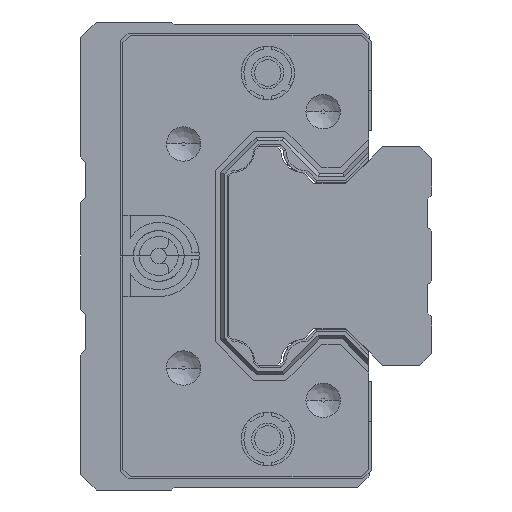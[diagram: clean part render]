
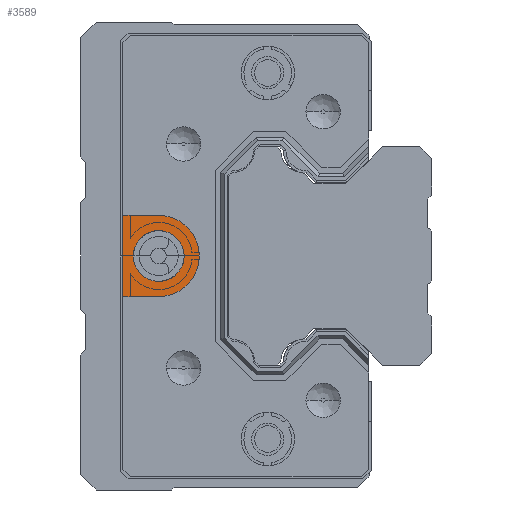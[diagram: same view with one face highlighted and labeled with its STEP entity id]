
A CAD part, left-side view. The second image highlights one B-rep face of the part: STEP entity #3589.
In plain terms, the highlighted planar face has unit normal (-1, 0, 0).
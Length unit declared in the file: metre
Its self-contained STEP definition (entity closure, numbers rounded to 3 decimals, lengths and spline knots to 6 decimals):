
#3589 = ADVANCED_FACE( '', ( #7513, #7514 ), #7515, .T. );
#7513 = FACE_OUTER_BOUND( '', #18538, .T. );
#7514 = FACE_BOUND( '', #18539, .T. );
#7515 = PLANE( '', #18540 );
#18538 = EDGE_LOOP( '', ( #30669, #30670, #30671, #30672 ) );
#18539 = EDGE_LOOP( '', ( #30673, #30674, #30675, #30676 ) );
#18540 = AXIS2_PLACEMENT_3D( '', #30677, #30678, #30679 );
#30669 = ORIENTED_EDGE( '', *, *, #36621, .F. );
#30670 = ORIENTED_EDGE( '', *, *, #36741, .F. );
#30671 = ORIENTED_EDGE( '', *, *, #35424, .T. );
#30672 = ORIENTED_EDGE( '', *, *, #35189, .T. );
#30673 = ORIENTED_EDGE( '', *, *, #37393, .F. );
#30674 = ORIENTED_EDGE( '', *, *, #37505, .F. );
#30675 = ORIENTED_EDGE( '', *, *, #37506, .F. );
#30676 = ORIENTED_EDGE( '', *, *, #37394, .F. );
#30677 = CARTESIAN_POINT( '', ( 0.227499, 0.029712, -0.005265 ) );
#30678 = DIRECTION( '', ( -1., 0., 0. ) );
#30679 = DIRECTION( '', ( 0., 0., 1. ) );
#35189 = EDGE_CURVE( '', #42002, #42000, #42003, .T. );
#35424 = EDGE_CURVE( '', #42346, #42002, #42347, .T. );
#36621 = EDGE_CURVE( '', #44013, #42000, #44015, .F. );
#36741 = EDGE_CURVE( '', #42346, #44013, #44165, .F. );
#37393 = EDGE_CURVE( '', #44952, #44954, #44955, .T. );
#37394 = EDGE_CURVE( '', #44954, #44956, #44957, .T. );
#37505 = EDGE_CURVE( '', #45075, #44952, #45076, .T. );
#37506 = EDGE_CURVE( '', #44956, #45075, #45077, .T. );
#42000 = VERTEX_POINT( '', #55347 );
#42002 = VERTEX_POINT( '', #55350 );
#42003 = LINE( '', #55351, #55352 );
#42346 = VERTEX_POINT( '', #56254 );
#42347 = CIRCLE( '', #56255, 0.0052 );
#44013 = VERTEX_POINT( '', #60246 );
#44015 = LINE( '', #60249, #60250 );
#44165 = LINE( '', #60579, #60580 );
#44952 = VERTEX_POINT( '', #62699 );
#44954 = VERTEX_POINT( '', #62702 );
#44955 = ( B_SPLINE_CURVE( 3, ( #62704, #62705, #62706, #62707 ), .UNSPECIFIED., .F., .F. )B_SPLINE_CURVE_WITH_KNOTS( ( 4, 4 ), ( 0., 0.5 ), .UNSPECIFIED. )RATIONAL_B_SPLINE_CURVE( ( 1., 0.667, 0.5, 0.5 ) )BOUNDED_CURVE(  )REPRESENTATION_ITEM( '' )GEOMETRIC_REPRESENTATION_ITEM(  )CURVE(  ) );
#44956 = VERTEX_POINT( '', #62714 );
#44957 = ( B_SPLINE_CURVE( 3, ( #62716, #62717, #62718, #62719 ), .UNSPECIFIED., .F., .F. )B_SPLINE_CURVE_WITH_KNOTS( ( 4, 4 ), ( 0.5, 1. ), .UNSPECIFIED. )RATIONAL_B_SPLINE_CURVE( ( 0.5, 0.5, 0.667, 1. ) )BOUNDED_CURVE(  )REPRESENTATION_ITEM( '' )GEOMETRIC_REPRESENTATION_ITEM(  )CURVE(  ) );
#45075 = VERTEX_POINT( '', #62964 );
#45076 = ( B_SPLINE_CURVE( 3, ( #62966, #62967, #62968, #62969 ), .UNSPECIFIED., .F., .F. )B_SPLINE_CURVE_WITH_KNOTS( ( 4, 4 ), ( 0.5, 1. ), .UNSPECIFIED. )RATIONAL_B_SPLINE_CURVE( ( 0.5, 0.5, 0.667, 1. ) )BOUNDED_CURVE(  )REPRESENTATION_ITEM( '' )GEOMETRIC_REPRESENTATION_ITEM(  )CURVE(  ) );
#45077 = ( B_SPLINE_CURVE( 3, ( #62977, #62978, #62979, #62980 ), .UNSPECIFIED., .F., .F. )B_SPLINE_CURVE_WITH_KNOTS( ( 4, 4 ), ( 0., 0.5 ), .UNSPECIFIED. )RATIONAL_B_SPLINE_CURVE( ( 1., 0.667, 0.5, 0.5 ) )BOUNDED_CURVE(  )REPRESENTATION_ITEM( '' )GEOMETRIC_REPRESENTATION_ITEM(  )CURVE(  ) );
#55347 = CARTESIAN_POINT( '', ( 0.2275, 0.03957, 0.0052 ) );
#55350 = CARTESIAN_POINT( '', ( 0.2275, 0.03497, 0.0052 ) );
#55351 = CARTESIAN_POINT( '', ( 0.2275, 0.029712, 0.0052 ) );
#55352 = VECTOR( '', #65546, 1. );
#56254 = CARTESIAN_POINT( '', ( 0.227499, 0.03497, -0.0052 ) );
#56255 = AXIS2_PLACEMENT_3D( '', #65698, #65699, #65700 );
#60246 = CARTESIAN_POINT( '', ( 0.227499, 0.03957, -0.0052 ) );
#60249 = CARTESIAN_POINT( '', ( 0.227499, 0.03957, -0.027325 ) );
#60250 = VECTOR( '', #66620, 1. );
#60579 = CARTESIAN_POINT( '', ( 0.227499, 0.039608, -0.0052 ) );
#60580 = VECTOR( '', #66714, 1. );
#62699 = CARTESIAN_POINT( '', ( 0.227499, 0.03172, -0.000001 ) );
#62702 = CARTESIAN_POINT( '', ( 0.2275, 0.034969, 0.00325 ) );
#62704 = CARTESIAN_POINT( '', ( 0.227499, 0.03172, -0.000001 ) );
#62705 = CARTESIAN_POINT( '', ( 0.2275, 0.031719, 0.001624 ) );
#62706 = CARTESIAN_POINT( '', ( 0.2275, 0.032802, 0.003249 ) );
#62707 = CARTESIAN_POINT( '', ( 0.2275, 0.034969, 0.00325 ) );
#62714 = CARTESIAN_POINT( '', ( 0.227499, 0.03822, 0.000001 ) );
#62716 = CARTESIAN_POINT( '', ( 0.2275, 0.034969, 0.00325 ) );
#62717 = CARTESIAN_POINT( '', ( 0.2275, 0.037136, 0.00325 ) );
#62718 = CARTESIAN_POINT( '', ( 0.2275, 0.038219, 0.001626 ) );
#62719 = CARTESIAN_POINT( '', ( 0.227499, 0.03822, 0.000001 ) );
#62964 = CARTESIAN_POINT( '', ( 0.227499, 0.034971, -0.00325 ) );
#62966 = CARTESIAN_POINT( '', ( 0.227499, 0.034971, -0.00325 ) );
#62967 = CARTESIAN_POINT( '', ( 0.227499, 0.032804, -0.003251 ) );
#62968 = CARTESIAN_POINT( '', ( 0.227499, 0.03172, -0.001626 ) );
#62969 = CARTESIAN_POINT( '', ( 0.227499, 0.03172, -0.000001 ) );
#62977 = CARTESIAN_POINT( '', ( 0.227499, 0.03822, 0.000001 ) );
#62978 = CARTESIAN_POINT( '', ( 0.227499, 0.03822, -0.001624 ) );
#62979 = CARTESIAN_POINT( '', ( 0.227499, 0.037137, -0.00325 ) );
#62980 = CARTESIAN_POINT( '', ( 0.227499, 0.034971, -0.00325 ) );
#65546 = DIRECTION( '', ( 0., 1., 0. ) );
#65698 = CARTESIAN_POINT( '', ( 0.227499, 0.03497, 0. ) );
#65699 = DIRECTION( '', ( -1., 0., 0. ) );
#65700 = DIRECTION( '', ( 0., 0., 1. ) );
#66620 = DIRECTION( '', ( 0., 0., -1. ) );
#66714 = DIRECTION( '', ( 0., -1., 0. ) );
